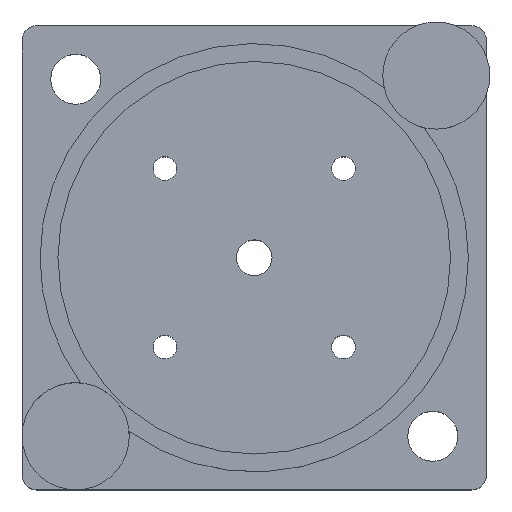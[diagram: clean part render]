
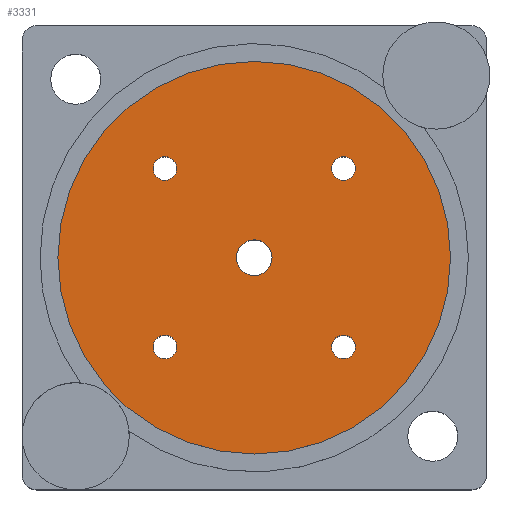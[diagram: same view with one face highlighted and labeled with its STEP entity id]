
A CAD part, top view. The second image highlights one B-rep face of the part: STEP entity #3331.
In plain terms, the highlighted planar face has unit normal (0, 0, 1).
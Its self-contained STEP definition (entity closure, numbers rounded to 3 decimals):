
#16 = EDGE_CURVE ( 'NONE', #10345, #5248, #4036, .T. ) ;
#60 = FACE_BOUND ( 'NONE', #5186, .T. ) ;
#137 = AXIS2_PLACEMENT_3D ( 'NONE', #6400, #222, #4254 ) ;
#187 = ORIENTED_EDGE ( 'NONE', *, *, #327, .T. ) ;
#222 = DIRECTION ( 'NONE',  ( 0., 0., 1. ) ) ;
#275 = FACE_BOUND ( 'NONE', #1815, .T. ) ;
#327 = EDGE_CURVE ( 'NONE', #2633, #7685, #5374, .T. ) ;
#632 = CARTESIAN_POINT ( 'NONE',  ( -27.5, 0., 18. ) ) ;
#708 = CIRCLE ( 'NONE', #6582, 1.65 ) ;
#821 = CARTESIAN_POINT ( 'NONE',  ( 12.5, -12.5, 18. ) ) ;
#828 = CARTESIAN_POINT ( 'NONE',  ( -2.5, 0., 18. ) ) ;
#929 = DIRECTION ( 'NONE',  ( 0., 0., 1. ) ) ;
#941 = FACE_BOUND ( 'NONE', #3258, .T. ) ;
#1162 = CARTESIAN_POINT ( 'NONE',  ( 12.5, -12.5, 18. ) ) ;
#1164 = EDGE_CURVE ( 'NONE', #6605, #6858, #2740, .T. ) ;
#1250 = DIRECTION ( 'NONE',  ( 1., 0., 0. ) ) ;
#1340 = EDGE_CURVE ( 'NONE', #1760, #2567, #7238, .T. ) ;
#1385 = CARTESIAN_POINT ( 'NONE',  ( -12.5, -12.5, 18. ) ) ;
#1524 = ORIENTED_EDGE ( 'NONE', *, *, #3172, .F. ) ;
#1654 = ORIENTED_EDGE ( 'NONE', *, *, #7722, .F. ) ;
#1760 = VERTEX_POINT ( 'NONE', #2552 ) ;
#1815 = EDGE_LOOP ( 'NONE', ( #2465, #1524 ) ) ;
#1894 = CIRCLE ( 'NONE', #7916, 1.65 ) ;
#1979 = EDGE_CURVE ( 'NONE', #8863, #7664, #2385, .T. ) ;
#2031 = EDGE_LOOP ( 'NONE', ( #8376, #5773 ) ) ;
#2160 = DIRECTION ( 'NONE',  ( 0., 0., 1. ) ) ;
#2199 = AXIS2_PLACEMENT_3D ( 'NONE', #2974, #8775, #7983 ) ;
#2204 = CIRCLE ( 'NONE', #9389, 2.5 ) ;
#2219 = CARTESIAN_POINT ( 'NONE',  ( -14.15, 12.5, 18. ) ) ;
#2269 = CARTESIAN_POINT ( 'NONE',  ( -10.85, -12.5, 18. ) ) ;
#2370 = EDGE_CURVE ( 'NONE', #2567, #1760, #1894, .T. ) ;
#2385 = CIRCLE ( 'NONE', #9267, 2.5 ) ;
#2465 = ORIENTED_EDGE ( 'NONE', *, *, #16, .F. ) ;
#2552 = CARTESIAN_POINT ( 'NONE',  ( 10.85, 12.5, 18. ) ) ;
#2567 = VERTEX_POINT ( 'NONE', #9732 ) ;
#2633 = VERTEX_POINT ( 'NONE', #4498 ) ;
#2679 = CARTESIAN_POINT ( 'NONE',  ( 12.5, 12.5, 18. ) ) ;
#2740 = CIRCLE ( 'NONE', #3584, 1.65 ) ;
#2820 = DIRECTION ( 'NONE',  ( 1., 0., 0. ) ) ;
#2871 = CARTESIAN_POINT ( 'NONE',  ( 0., 0., 18. ) ) ;
#2944 = VERTEX_POINT ( 'NONE', #3312 ) ;
#2974 = CARTESIAN_POINT ( 'NONE',  ( -12.5, 12.5, 18. ) ) ;
#3053 = DIRECTION ( 'NONE',  ( 1., 0., 0. ) ) ;
#3172 = EDGE_CURVE ( 'NONE', #5248, #10345, #6992, .T. ) ;
#3183 = DIRECTION ( 'NONE',  ( 0., 0., 1. ) ) ;
#3258 = EDGE_LOOP ( 'NONE', ( #4151, #3659 ) ) ;
#3312 = CARTESIAN_POINT ( 'NONE',  ( 14.15, -12.5, 18. ) ) ;
#3331 = ADVANCED_FACE ( 'NONE', ( #275, #4920, #8123, #941, #60, #8015 ), #7334, .T. ) ;
#3579 = CARTESIAN_POINT ( 'NONE',  ( -14.15, -12.5, 18. ) ) ;
#3580 = DIRECTION ( 'NONE',  ( 1., 0., 0. ) ) ;
#3584 = AXIS2_PLACEMENT_3D ( 'NONE', #6489, #3183, #9571 ) ;
#3659 = ORIENTED_EDGE ( 'NONE', *, *, #4436, .F. ) ;
#3664 = CARTESIAN_POINT ( 'NONE',  ( 12.5, 12.5, 18. ) ) ;
#3680 = EDGE_CURVE ( 'NONE', #2944, #6931, #9302, .T. ) ;
#3744 = DIRECTION ( 'NONE',  ( 1., 0., 0. ) ) ;
#3812 = DIRECTION ( 'NONE',  ( 1., 0., 0. ) ) ;
#3834 = DIRECTION ( 'NONE',  ( 1., 0., 0. ) ) ;
#3847 = DIRECTION ( 'NONE',  ( 0., 0., 1. ) ) ;
#4036 = CIRCLE ( 'NONE', #2199, 1.65 ) ;
#4151 = ORIENTED_EDGE ( 'NONE', *, *, #3680, .F. ) ;
#4192 = CARTESIAN_POINT ( 'NONE',  ( 0., 0., 18. ) ) ;
#4254 = DIRECTION ( 'NONE',  ( 1., 0., 0. ) ) ;
#4286 = CARTESIAN_POINT ( 'NONE',  ( -10.85, 12.5, 18. ) ) ;
#4364 = DIRECTION ( 'NONE',  ( 0., 0., 1. ) ) ;
#4436 = EDGE_CURVE ( 'NONE', #6931, #2944, #708, .T. ) ;
#4498 = CARTESIAN_POINT ( 'NONE',  ( 27.5, 0., 18. ) ) ;
#4508 = DIRECTION ( 'NONE',  ( 1., 0., 0. ) ) ;
#4698 = AXIS2_PLACEMENT_3D ( 'NONE', #4192, #7171, #9639 ) ;
#4736 = EDGE_LOOP ( 'NONE', ( #187, #6997 ) ) ;
#4738 = ORIENTED_EDGE ( 'NONE', *, *, #7039, .F. ) ;
#4920 = FACE_BOUND ( 'NONE', #2031, .T. ) ;
#5186 = EDGE_LOOP ( 'NONE', ( #4738, #9479 ) ) ;
#5248 = VERTEX_POINT ( 'NONE', #2219 ) ;
#5314 = AXIS2_PLACEMENT_3D ( 'NONE', #8704, #2160, #3053 ) ;
#5374 = CIRCLE ( 'NONE', #6060, 27.5 ) ;
#5657 = CARTESIAN_POINT ( 'NONE',  ( 0., 0., 18. ) ) ;
#5697 = DIRECTION ( 'NONE',  ( 1., 0., 0. ) ) ;
#5773 = ORIENTED_EDGE ( 'NONE', *, *, #1340, .F. ) ;
#5780 = CARTESIAN_POINT ( 'NONE',  ( 2.5, 0., 18. ) ) ;
#6060 = AXIS2_PLACEMENT_3D ( 'NONE', #2871, #9159, #2820 ) ;
#6064 = AXIS2_PLACEMENT_3D ( 'NONE', #1385, #7719, #3744 ) ;
#6253 = AXIS2_PLACEMENT_3D ( 'NONE', #3664, #7794, #4508 ) ;
#6400 = CARTESIAN_POINT ( 'NONE',  ( 0., 0., 18. ) ) ;
#6489 = CARTESIAN_POINT ( 'NONE',  ( -12.5, -12.5, 18. ) ) ;
#6582 = AXIS2_PLACEMENT_3D ( 'NONE', #1162, #4364, #3580 ) ;
#6605 = VERTEX_POINT ( 'NONE', #2269 ) ;
#6740 = CIRCLE ( 'NONE', #6064, 1.65 ) ;
#6858 = VERTEX_POINT ( 'NONE', #3579 ) ;
#6896 = CIRCLE ( 'NONE', #4698, 27.5 ) ;
#6931 = VERTEX_POINT ( 'NONE', #9470 ) ;
#6992 = CIRCLE ( 'NONE', #5314, 1.65 ) ;
#6997 = ORIENTED_EDGE ( 'NONE', *, *, #7929, .T. ) ;
#7039 = EDGE_CURVE ( 'NONE', #7664, #8863, #2204, .T. ) ;
#7171 = DIRECTION ( 'NONE',  ( 0., 0., 1. ) ) ;
#7238 = CIRCLE ( 'NONE', #6253, 1.65 ) ;
#7240 = EDGE_LOOP ( 'NONE', ( #8340, #1654 ) ) ;
#7334 = PLANE ( 'NONE',  #137 ) ;
#7664 = VERTEX_POINT ( 'NONE', #5780 ) ;
#7685 = VERTEX_POINT ( 'NONE', #632 ) ;
#7719 = DIRECTION ( 'NONE',  ( 0., 0., 1. ) ) ;
#7722 = EDGE_CURVE ( 'NONE', #6858, #6605, #6740, .T. ) ;
#7794 = DIRECTION ( 'NONE',  ( 0., 0., 1. ) ) ;
#7834 = CARTESIAN_POINT ( 'NONE',  ( 0., 0., 18. ) ) ;
#7916 = AXIS2_PLACEMENT_3D ( 'NONE', #2679, #8289, #3812 ) ;
#7929 = EDGE_CURVE ( 'NONE', #7685, #2633, #6896, .T. ) ;
#7983 = DIRECTION ( 'NONE',  ( 1., 0., 0. ) ) ;
#8015 = FACE_OUTER_BOUND ( 'NONE', #4736, .T. ) ;
#8123 = FACE_BOUND ( 'NONE', #7240, .T. ) ;
#8289 = DIRECTION ( 'NONE',  ( 0., 0., 1. ) ) ;
#8340 = ORIENTED_EDGE ( 'NONE', *, *, #1164, .F. ) ;
#8376 = ORIENTED_EDGE ( 'NONE', *, *, #2370, .F. ) ;
#8704 = CARTESIAN_POINT ( 'NONE',  ( -12.5, 12.5, 18. ) ) ;
#8775 = DIRECTION ( 'NONE',  ( 0., 0., 1. ) ) ;
#8798 = AXIS2_PLACEMENT_3D ( 'NONE', #821, #929, #5697 ) ;
#8853 = DIRECTION ( 'NONE',  ( 0., 0., 1. ) ) ;
#8863 = VERTEX_POINT ( 'NONE', #828 ) ;
#9159 = DIRECTION ( 'NONE',  ( 0., 0., 1. ) ) ;
#9267 = AXIS2_PLACEMENT_3D ( 'NONE', #7834, #3847, #1250 ) ;
#9302 = CIRCLE ( 'NONE', #8798, 1.65 ) ;
#9389 = AXIS2_PLACEMENT_3D ( 'NONE', #5657, #8853, #3834 ) ;
#9470 = CARTESIAN_POINT ( 'NONE',  ( 10.85, -12.5, 18. ) ) ;
#9479 = ORIENTED_EDGE ( 'NONE', *, *, #1979, .F. ) ;
#9571 = DIRECTION ( 'NONE',  ( 1., 0., 0. ) ) ;
#9639 = DIRECTION ( 'NONE',  ( 1., 0., 0. ) ) ;
#9732 = CARTESIAN_POINT ( 'NONE',  ( 14.15, 12.5, 18. ) ) ;
#10345 = VERTEX_POINT ( 'NONE', #4286 ) ;
